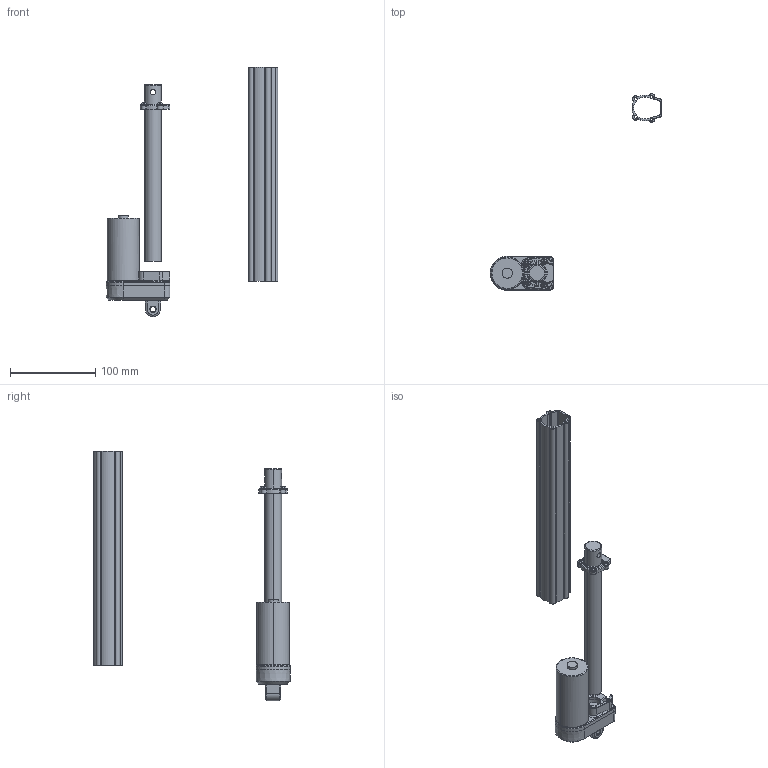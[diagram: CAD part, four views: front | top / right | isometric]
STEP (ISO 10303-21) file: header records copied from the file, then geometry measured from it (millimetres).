
FILE_DESCRIPTION(/* description */ ('Alibre Inc.'),/* implementation_level */ '2;1');
FILE_NAME(/* name */ 'export0',/* time_stamp */ '2008-04-02T09:43:38+02:00',/* author */ (''),/* organization */ (''),/* preprocessor_version */ 'ST-DEVELOPER v10',/* originating_system */ 'Alibre',/* authorisation */ '');
FILE_SCHEMA (('ALIBRE_SCHEMA','CONFIG_CONTROL_DESIGN'));
Length unit declared in the file: centimetre
Products named in the file (4): ID_1; ID_2; ID_3
Bounding box: 201.76 x 230.84 x 293.81 mm (x, y, z)
Volume: 239887.4 mm3; surface area: 116311.9 mm2
Topology: 3 solids, 3 shells, 638 faces, 1641 edges, 1013 vertices
Faces by surface type: cylinder 206, plane 181, torus 123, cone 102, bspline 24, sphere 2
Entity records: 44374 total; most frequent: CARTESIAN_POINT 11809, DIRECTION 6338, ORIENTED_EDGE 6276, EDGE_CURVE 3138, AXIS2_PLACEMENT_3D 2877, VERTEX_POINT 1938, CIRCLE 1640, EDGE_LOOP 1308
